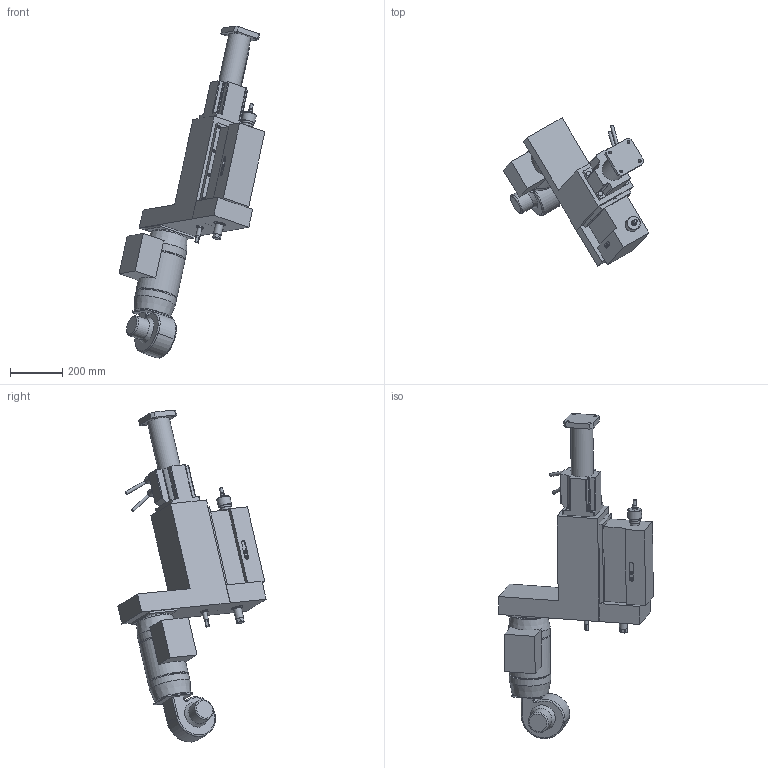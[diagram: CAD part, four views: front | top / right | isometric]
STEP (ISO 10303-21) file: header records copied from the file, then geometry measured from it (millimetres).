
FILE_DESCRIPTION((''),'2;1');
FILE_NAME('C:\VaultWork\Zeichnungen\Maßblätter\Gewindemaschinen\GE6-7\GE6-7-03 Maßblatt Tischmaschine GE6-7 höhenverstellbar Z-Laterne.stp','2009-08-19T14:28:16',('Test'),(''),'Autodesk Inventor 2008','Autodesk Inventor 2008','');
FILE_SCHEMA(('AUTOMOTIVE_DESIGN { 1 0 10303 214 1 1 1 1 }'));
Length unit declared in the file: millimetre
Products named in the file (1): GE6-7-03 Maßblatt Tischmaschine GE6-7 höhenverstellbar Z-Laterne
Bounding box: 556.34 x 566.26 x 1267.15 mm (x, y, z)
Volume: 34578991.7 mm3; surface area: 1210017.8 mm2
Topology: 1 solids, 5 shells, 347 faces, 826 edges, 536 vertices
Faces by surface type: plane 194, cylinder 82, bspline 50, cone 12, torus 9
Full cylindrical faces by diameter (mm): 7 x2, 11.5 x1, 12 x2, 14 x1, 16 x2, 19 x2, 20 x1, 25 x2, 26 x1, 28 x3, 30 x2, 35 x1, 40 x1, 44 x1, 45 x1, 52 x1, 80 x1, 85 x1, 120 x1, 150 x1, 158 x2
Entity records: 10420 total; most frequent: CARTESIAN_POINT 2423, DIRECTION 1576, ORIENTED_EDGE 1440, EDGE_CURVE 720, AXIS2_PLACEMENT_3D 576, VERTEX_POINT 511, EDGE_LOOP 487, VECTOR 424
